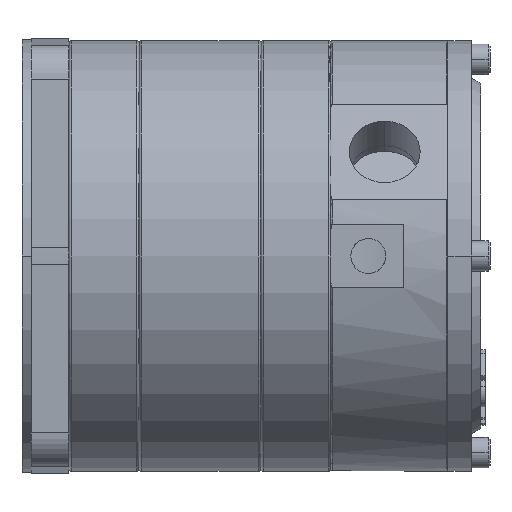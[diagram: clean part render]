
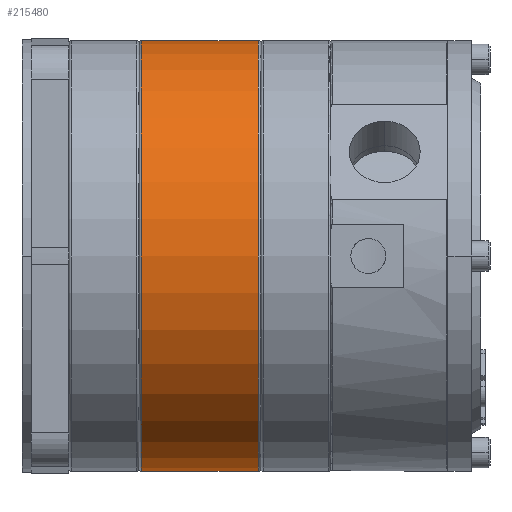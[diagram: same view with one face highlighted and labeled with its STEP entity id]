
A CAD part, front view. The second image highlights one B-rep face of the part: STEP entity #215480.
In plain terms, the highlighted cylindrical face has radius 92 mm (diameter 184 mm), a partial arc.
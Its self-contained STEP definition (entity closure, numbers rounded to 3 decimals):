
#110=CARTESIAN_POINT('',(43.,-92.,0.));
#120=VERTEX_POINT('',#110);
#170=CARTESIAN_POINT('',(43.,0.,0.));
#180=DIRECTION('',(1.,0.,0.));
#190=DIRECTION('',(0.,1.,0.));
#200=AXIS2_PLACEMENT_3D('',#170,#180,#190);
#210=CIRCLE('',#200,92.);
#220=CARTESIAN_POINT('',(43.,92.,0.));
#230=VERTEX_POINT('',#220);
#240=EDGE_CURVE('',#230,#120,#210,.T.);
#4180=CARTESIAN_POINT('',(15.,-92.,0.));
#4190=DIRECTION('',(-1.,0.,0.));
#4200=VECTOR('',#4190,1.);
#4210=LINE('',#4180,#4200);
#4220=CARTESIAN_POINT('',(-7.,-92.,0.));
#4230=VERTEX_POINT('',#4220);
#4240=EDGE_CURVE('',#120,#4230,#4210,.T.);
#4280=CARTESIAN_POINT('',(15.,92.,0.));
#4290=DIRECTION('',(-1.,0.,0.));
#4300=VECTOR('',#4290,1.);
#4310=LINE('',#4280,#4300);
#4320=CARTESIAN_POINT('',(-7.,92.,0.));
#4330=VERTEX_POINT('',#4320);
#4340=EDGE_CURVE('',#230,#4330,#4310,.T.);
#4360=CARTESIAN_POINT('',(-7.,0.,0.));
#4370=DIRECTION('',(1.,0.,0.));
#4380=DIRECTION('',(0.,1.,0.));
#4390=AXIS2_PLACEMENT_3D('',#4360,#4370,#4380);
#4400=CIRCLE('',#4390,92.);
#215360=CARTESIAN_POINT('',(15.,0.,0.));
#215370=DIRECTION('',(-1.,0.,0.));
#215380=DIRECTION('',(0.,1.,0.));
#215390=AXIS2_PLACEMENT_3D('',#215360,#215370,#215380);
#215400=CYLINDRICAL_SURFACE('',#215390,92.);
#215410=ORIENTED_EDGE('',*,*,#240,.F.);
#215420=ORIENTED_EDGE('',*,*,#4240,.F.);
#215430=EDGE_CURVE('',#4330,#4230,#4400,.T.);
#215440=ORIENTED_EDGE('',*,*,#215430,.T.);
#215450=ORIENTED_EDGE('',*,*,#4340,.T.);
#215460=EDGE_LOOP('',(#215450,#215440,#215420,#215410));
#215470=FACE_OUTER_BOUND('',#215460,.T.);
#215480=ADVANCED_FACE('',(#215470),#215400,.T.);
